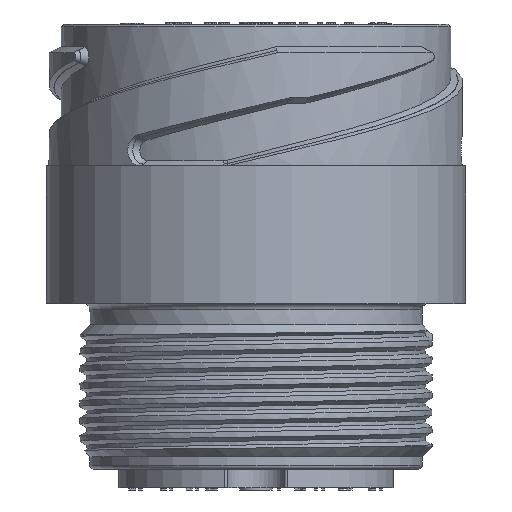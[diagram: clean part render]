
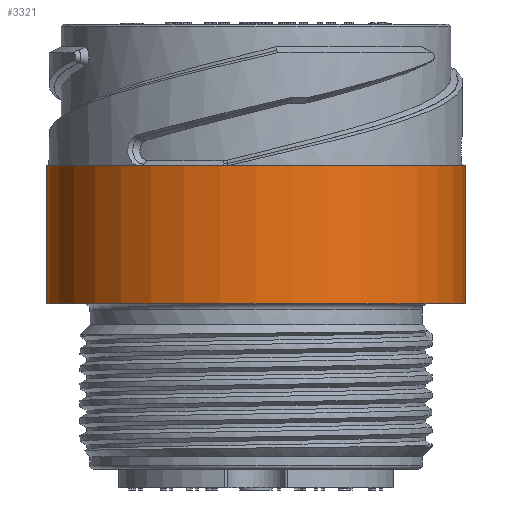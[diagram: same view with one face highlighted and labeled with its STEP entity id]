
A CAD part, front view. The second image highlights one B-rep face of the part: STEP entity #3321.
In plain terms, the highlighted cylindrical face has radius 16.975 mm (diameter 33.95 mm), a full revolution.
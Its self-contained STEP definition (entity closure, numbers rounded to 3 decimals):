
#3261 = DIRECTION ( 'NONE',  ( 0., 0., 1. ) ) ;
#3321 = ADVANCED_FACE ( 'NONE', ( #67353, #39249 ), #40870, .T. ) ;
#4829 = EDGE_LOOP ( 'NONE', ( #52792 ) ) ;
#7250 = CIRCLE ( 'NONE', #64975, 16.975 ) ;
#7564 = DIRECTION ( 'NONE',  ( -1., 0., 0. ) ) ;
#9513 = EDGE_CURVE ( 'NONE', #57481, #57481, #46384, .T. ) ;
#18003 = CARTESIAN_POINT ( 'NONE',  ( 0., 0., -11.45 ) ) ;
#18239 = DIRECTION ( 'NONE',  ( 0., 0., -1. ) ) ;
#31096 = DIRECTION ( 'NONE',  ( 0., 0., -1. ) ) ;
#37569 = CARTESIAN_POINT ( 'NONE',  ( 0., 0., -22.6 ) ) ;
#37613 = AXIS2_PLACEMENT_3D ( 'NONE', #50253, #3261, #61561 ) ;
#39249 = FACE_OUTER_BOUND ( 'NONE', #46048, .T. ) ;
#40870 = CYLINDRICAL_SURFACE ( 'NONE', #37613, 16.975 ) ;
#46048 = EDGE_LOOP ( 'NONE', ( #67084 ) ) ;
#46384 = CIRCLE ( 'NONE', #49227, 16.975 ) ;
#49227 = AXIS2_PLACEMENT_3D ( 'NONE', #37569, #31096, #68038 ) ;
#50253 = CARTESIAN_POINT ( 'NONE',  ( 0., 0., -87.813 ) ) ;
#52187 = CARTESIAN_POINT ( 'NONE',  ( -16.975, 0., -22.6 ) ) ;
#52792 = ORIENTED_EDGE ( 'NONE', *, *, #65912, .T. ) ;
#53322 = VERTEX_POINT ( 'NONE', #64263 ) ;
#57481 = VERTEX_POINT ( 'NONE', #52187 ) ;
#61561 = DIRECTION ( 'NONE',  ( 1., 0., 0. ) ) ;
#64263 = CARTESIAN_POINT ( 'NONE',  ( -16.975, 0., -11.45 ) ) ;
#64975 = AXIS2_PLACEMENT_3D ( 'NONE', #18003, #18239, #7564 ) ;
#65912 = EDGE_CURVE ( 'NONE', #53322, #53322, #7250, .T. ) ;
#67084 = ORIENTED_EDGE ( 'NONE', *, *, #9513, .F. ) ;
#67353 = FACE_OUTER_BOUND ( 'NONE', #4829, .T. ) ;
#68038 = DIRECTION ( 'NONE',  ( -1., 0., 0. ) ) ;
